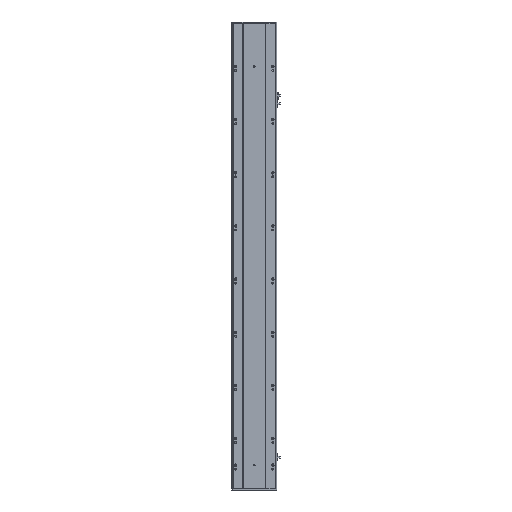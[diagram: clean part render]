
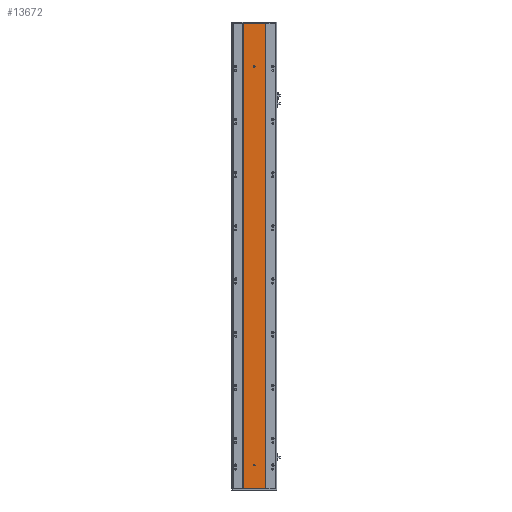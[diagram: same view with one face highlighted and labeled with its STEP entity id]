
A CAD part, front view. The second image highlights one B-rep face of the part: STEP entity #13672.
In plain terms, the highlighted planar face has unit normal (0, -1, 0).
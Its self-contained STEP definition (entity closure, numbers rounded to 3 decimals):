
#781 = ORIENTED_EDGE ( 'NONE', *, *, #20269, .F. ) ;
#831 = CARTESIAN_POINT ( 'NONE',  ( 85., 2.57, 85.5 ) ) ;
#1316 = DIRECTION ( 'NONE',  ( 0., 0., 1. ) ) ;
#1357 = VERTEX_POINT ( 'NONE', #13580 ) ;
#1924 = ORIENTED_EDGE ( 'NONE', *, *, #14275, .T. ) ;
#2445 = VERTEX_POINT ( 'NONE', #20944 ) ;
#3286 = DIRECTION ( 'NONE',  ( 0., 1., 0. ) ) ;
#5256 = EDGE_CURVE ( 'NONE', #6176, #24986, #19129, .T. ) ;
#5948 = PLANE ( 'NONE',  #21468 ) ;
#6176 = VERTEX_POINT ( 'NONE', #8639 ) ;
#6236 = VECTOR ( 'NONE', #8342, 1000. ) ;
#6244 = CARTESIAN_POINT ( 'NONE',  ( 42.916, 2.57, 0. ) ) ;
#6540 = VECTOR ( 'NONE', #12216, 1000. ) ;
#6563 = ORIENTED_EDGE ( 'NONE', *, *, #13520, .T. ) ;
#6964 = CARTESIAN_POINT ( 'NONE',  ( 85., 2.57, 1591.5 ) ) ;
#7092 = CARTESIAN_POINT ( 'NONE',  ( 85., 2.57, 88.5 ) ) ;
#7105 = VECTOR ( 'NONE', #25520, 1000. ) ;
#7494 = AXIS2_PLACEMENT_3D ( 'NONE', #26437, #13864, #1316 ) ;
#8117 = DIRECTION ( 'NONE',  ( 0., 1., 0. ) ) ;
#8342 = DIRECTION ( 'NONE',  ( 0., 0., 1. ) ) ;
#8365 = CARTESIAN_POINT ( 'NONE',  ( 42.916, 2.57, 1751. ) ) ;
#8531 = CIRCLE ( 'NONE', #16298, 3. ) ;
#8639 = CARTESIAN_POINT ( 'NONE',  ( 85., 2.57, 1585.5 ) ) ;
#8812 = CARTESIAN_POINT ( 'NONE',  ( 42.916, 2.57, 0. ) ) ;
#9180 = DIRECTION ( 'NONE',  ( 0., 0., 1. ) ) ;
#9856 = AXIS2_PLACEMENT_3D ( 'NONE', #20604, #8117, #22696 ) ;
#9874 = ORIENTED_EDGE ( 'NONE', *, *, #17851, .T. ) ;
#10144 = DIRECTION ( 'NONE',  ( 0., 1., 0. ) ) ;
#11804 = FACE_BOUND ( 'NONE', #25277, .T. ) ;
#12216 = DIRECTION ( 'NONE',  ( 0., 0., 1. ) ) ;
#13298 = ORIENTED_EDGE ( 'NONE', *, *, #24273, .T. ) ;
#13301 = LINE ( 'NONE', #8812, #7105 ) ;
#13516 = VERTEX_POINT ( 'NONE', #22092 ) ;
#13520 = EDGE_CURVE ( 'NONE', #27063, #2445, #20609, .T. ) ;
#13580 = CARTESIAN_POINT ( 'NONE',  ( 126.916, 2.57, 0. ) ) ;
#13672 = ADVANCED_FACE ( 'NONE', ( #15996, #11804, #21567 ), #5948, .F. ) ;
#13864 = DIRECTION ( 'NONE',  ( 0., 1., 0. ) ) ;
#14078 = EDGE_LOOP ( 'NONE', ( #13298, #16133, #781, #1924 ) ) ;
#14275 = EDGE_CURVE ( 'NONE', #1357, #14635, #17624, .T. ) ;
#14274 = CARTESIAN_POINT ( 'NONE',  ( 126.916, 2.57, 0. ) ) ;
#14384 = ORIENTED_EDGE ( 'NONE', *, *, #5256, .T. ) ;
#14635 = VERTEX_POINT ( 'NONE', #21066 ) ;
#15764 = CARTESIAN_POINT ( 'NONE',  ( 85., 2.57, 1588.5 ) ) ;
#15945 = CARTESIAN_POINT ( 'NONE',  ( 42.916, 2.57, 0. ) ) ;
#15996 = FACE_BOUND ( 'NONE', #18573, .T. ) ;
#16008 = VERTEX_POINT ( 'NONE', #15945 ) ;
#16133 = ORIENTED_EDGE ( 'NONE', *, *, #18184, .F. ) ;
#16298 = AXIS2_PLACEMENT_3D ( 'NONE', #7092, #21656, #9180 ) ;
#17528 = EDGE_CURVE ( 'NONE', #24986, #6176, #26880, .T. ) ;
#17593 = VECTOR ( 'NONE', #22957, 1000. ) ;
#17624 = LINE ( 'NONE', #14274, #6540 ) ;
#17851 = EDGE_CURVE ( 'NONE', #2445, #27063, #8531, .T. ) ;
#17896 = DIRECTION ( 'NONE',  ( 0., 0., 1. ) ) ;
#17978 = LINE ( 'NONE', #6244, #6236 ) ;
#18184 = EDGE_CURVE ( 'NONE', #16008, #13516, #17978, .T. ) ;
#18266 = LINE ( 'NONE', #8365, #17593 ) ;
#18573 = EDGE_LOOP ( 'NONE', ( #6563, #9874 ) ) ;
#19129 = CIRCLE ( 'NONE', #25665, 3. ) ;
#20269 = EDGE_CURVE ( 'NONE', #1357, #16008, #13301, .T. ) ;
#20604 = CARTESIAN_POINT ( 'NONE',  ( 85., 2.57, 1588.5 ) ) ;
#20609 = CIRCLE ( 'NONE', #7494, 3. ) ;
#20936 = ORIENTED_EDGE ( 'NONE', *, *, #17528, .T. ) ;
#20944 = CARTESIAN_POINT ( 'NONE',  ( 85., 2.57, 91.5 ) ) ;
#21066 = CARTESIAN_POINT ( 'NONE',  ( 126.916, 2.57, 1751. ) ) ;
#21468 = AXIS2_PLACEMENT_3D ( 'NONE', #22633, #10144, #24766 ) ;
#21567 = FACE_OUTER_BOUND ( 'NONE', #14078, .T. ) ;
#21656 = DIRECTION ( 'NONE',  ( 0., 1., 0. ) ) ;
#22092 = CARTESIAN_POINT ( 'NONE',  ( 42.916, 2.57, 1751. ) ) ;
#22633 = CARTESIAN_POINT ( 'NONE',  ( 42.916, 2.57, 0. ) ) ;
#22696 = DIRECTION ( 'NONE',  ( 0., 0., 1. ) ) ;
#22957 = DIRECTION ( 'NONE',  ( -1., 0., 0. ) ) ;
#24273 = EDGE_CURVE ( 'NONE', #14635, #13516, #18266, .T. ) ;
#24766 = DIRECTION ( 'NONE',  ( 0., 0., 1. ) ) ;
#24986 = VERTEX_POINT ( 'NONE', #6964 ) ;
#25277 = EDGE_LOOP ( 'NONE', ( #14384, #20936 ) ) ;
#25520 = DIRECTION ( 'NONE',  ( -1., 0., 0. ) ) ;
#25665 = AXIS2_PLACEMENT_3D ( 'NONE', #15764, #3286, #17896 ) ;
#26437 = CARTESIAN_POINT ( 'NONE',  ( 85., 2.57, 88.5 ) ) ;
#26880 = CIRCLE ( 'NONE', #9856, 3. ) ;
#27063 = VERTEX_POINT ( 'NONE', #831 ) ;
